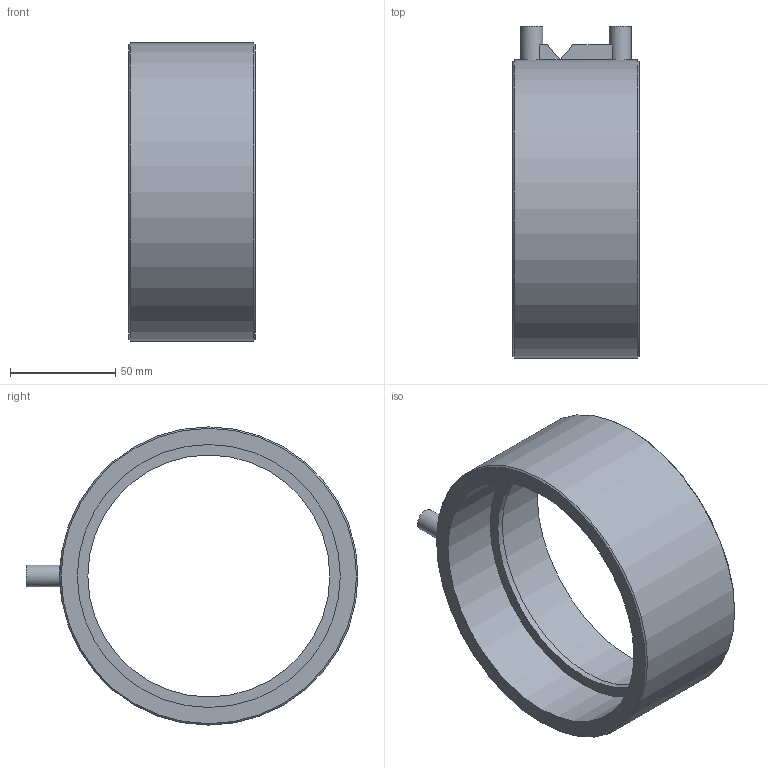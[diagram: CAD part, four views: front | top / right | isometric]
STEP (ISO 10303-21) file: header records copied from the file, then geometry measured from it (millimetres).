
FILE_DESCRIPTION(/* description */ (''),/* implementation_level */ '2;1');
FILE_NAME(/* name */ 'H:\Geberit-Teile\Export\Fertig zum Export\Elektro-Schweissmuffe_Ipart\stp\368771.stp',/* time_stamp */ '2017-07-24T13:33:31+02:00',/* author */ ('seihe2'),/* organization */ (''),/* preprocessor_version */ 'ST-DEVELOPER v15.2',/* originating_system */ 'Autodesk Inventor 2014',/* authorisation */ '');
FILE_SCHEMA (('AUTOMOTIVE_DESIGN { 1 0 10303 214 3 1 1 }'));
Length unit declared in the file: millimetre
Products named in the file (1): 368771
Bounding box: 60 x 157.8 x 141.8 mm (x, y, z)
Volume: 219235.5 mm3; surface area: 64521.1 mm2
Topology: 1 solids, 1 shells, 30 faces, 64 edges, 42 vertices
Faces by surface type: plane 14, cylinder 12, cone 4
Full cylindrical faces by diameter (mm): 7.4 x2, 10.4 x2, 115 x1, 125 x2, 127.2 x2, 141.8 x1
Entity records: 866 total; most frequent: CARTESIAN_POINT 242, DIRECTION 116, ORIENTED_EDGE 90, AXIS2_PLACEMENT_3D 52, EDGE_LOOP 51, EDGE_CURVE 45, VERTEX_POINT 36, STYLED_ITEM 31
